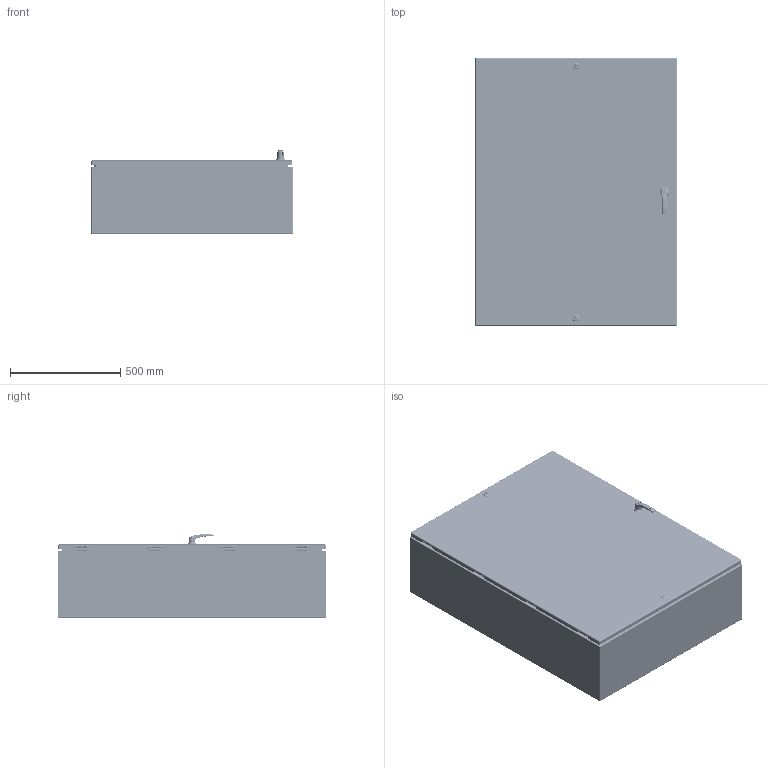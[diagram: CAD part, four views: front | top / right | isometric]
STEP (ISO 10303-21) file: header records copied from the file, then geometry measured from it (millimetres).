
FILE_DESCRIPTION(/* description */ ('5412ES 48" x 36" x 12" Assembly'),/* implementation_level */ '2;1');
FILE_NAME(/* name */ '5412ESB483612.stp',/* time_stamp */ '2024-01-17T16:44:48-05:00',/* author */ ('BoxCad'),/* organization */ (''),/* preprocessor_version */ 'ST-DEVELOPER v20',/* originating_system */ 'Autodesk Inventor 2024',/* authorisation */ '');
FILE_SCHEMA (('AUTOMOTIVE_DESIGN { 1 0 10303 214 3 1 1 }'));
Products named in the file (69): 5412ESB483612; 5412ESB483612B; 5412ESB483612B-P; STK-Q-16005; STUD_M6 x 16mm; 5412ESB483612C; 5412ESB483612C-P; 5412ESB483612G; STK-K-09800; STK-K-09800-2; STK-K-09800-3; STK-K-09800-4; STK-Q-33014; STK-Q-90398; STK-Q-40095; STK-Q-63410; STK-Q-16405; STK-Q-46020-48; STK-Q-07220-1; STK-Q-07220-2; STK-Q-07220-3; STK-Q-07220-4; STK-Q-07220-5; STK-Q-07220-6; STK-Q-07220-A; STK-Q-07220-B; STK-Q-16055; STK-Q-46515-1; STK-Q-46515-B; STK-Q-46515-A; STK-P-03820R; STK-S-00100; STK-A-885ESL2A-L-1; STK-Q-78210; STK-Q-78215; STK-Q-78220-K; STK-Q-78230; STK-Q-78240; STK-Q-03200-NT; STK-Q-78125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
Assembly tree (137 placements, depth 4):
  5412ESB483612
    5412ESB483612B
      5412ESB483612B-P
      STK-Q-16005  x8
      STK-P-03820R
      STUD_M6 x 16mm
    5412ESB483612C
      5412ESB483612C-P
      5412ESB483612G
      STK-K-09800
        STK-Q-33014
        STK-Q-90398
        STK-Q-40095  x2
        STK-Q-63410  x2
      STK-K-09800-2
        STK-Q-33014
        STK-Q-90398
        STK-Q-40095  x2
        STK-Q-63410  x2
      STK-K-09800-3
        STK-Q-33014
        STK-Q-90398
        STK-Q-40095  x2
        STK-Q-63410  x2
      STK-K-09800-4
        STK-Q-33014
        STK-Q-90398
        STK-Q-40095  x2
        STK-Q-63410  x2
      STK-Q-16055  x7
      STK-Q-16405  x2
      STK-Q-46020-48  x2
      STK-Q-07220-1
        STK-Q-07220-A
        STK-Q-07220-B
      STK-Q-07220-2
        STK-Q-07220-A
        STK-Q-07220-B
      STK-Q-07220-3
        STK-Q-07220-A
        STK-Q-07220-B
      STK-Q-07220-4
        STK-Q-07220-A
        STK-Q-07220-B
      STK-Q-07220-5
        STK-Q-07220-A
        STK-Q-07220-B
      STK-Q-07220-6
        STK-Q-07220-A
        STK-Q-07220-B
      STK-Q-46515-1
        STK-Q-46515-B
        STK-Q-46515-A
      STK-P-03820R
      STK-S-00100
      STK-A-885ESL2A-L-1
        STK-Q-78210
        STK-Q-78215
        STK-Q-78220-K
        STK-Q-78230
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Bounding box: 914.85 x 1219.2 x 380.49 mm (x, y, z)
Volume: 9912222 mm3; surface area: 10261427.1 mm2
Topology: 119 solids, 119 shells, 20560 faces, 54318 edges, 34170 vertices
Faces by surface type: bspline 7174, plane 5743, cylinder 5338, torus 1636, sphere 370, cone 299
Full cylindrical faces by diameter (mm): 0 x1, 0.75 x18, 0.762 x18, 1 x16, 1.1 x16, 1.581 x1, 2.459 x1, 3.2 x8, 3.8 x2, 4.191 x88, 4.2 x2, 4.4 x12, 4.5 x7, 4.521 x16, 4.75 x4, 4.826 x1, 4.85 x32, 4.95 x8, 5 x6, 5.1 x39, 5.105 x11, 5.11 x1, 5.156 x2, 5.2 x2, 5.6 x4, 5.9 x36, 6 x2, 6.015 x88, 6.65 x8, 6.8 x6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
Entity records: 301135 total; most frequent: CARTESIAN_POINT 117904, ORIENTED_EDGE 41048, DIRECTION 31972, EDGE_CURVE 20524, VERTEX_POINT 12853, AXIS2_PLACEMENT_3D 11570, LINE 8832, VECTOR 8832
